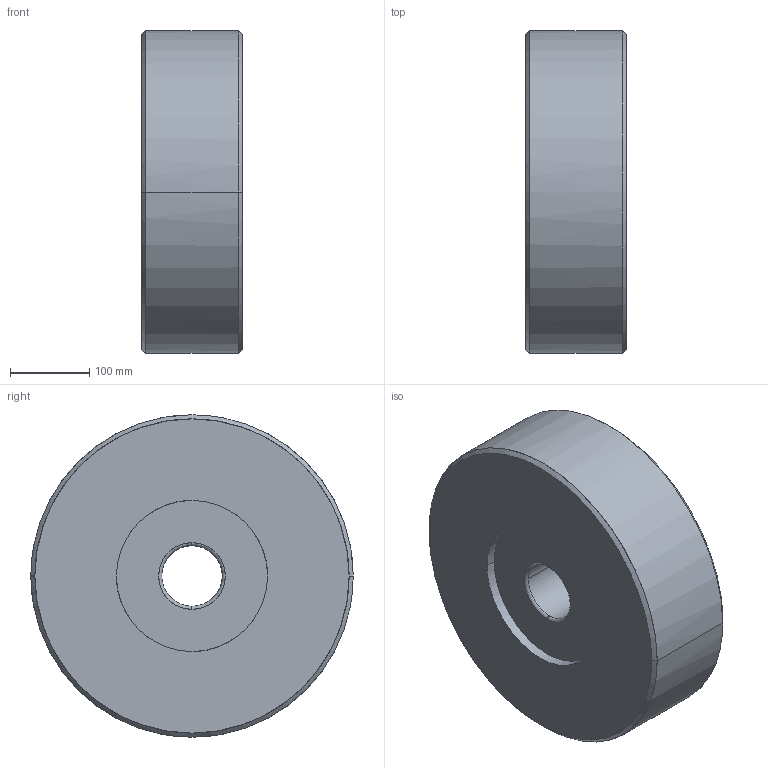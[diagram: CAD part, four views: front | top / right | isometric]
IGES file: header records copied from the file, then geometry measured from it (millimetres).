
Global section: native system: Kubotek KeyCreator; preprocessor: KCM Version 1.1.1442.0; author: KeyCreator User; organization: Self; date: 20170713.025201; units: inch
Bounding box: 127 x 406.4 x 406.4 mm (x, y, z)
Surface area: 443659.8 mm2 (no closed solid volume)
Topology: 0 solids, 0 shells, 20 faces, 128 edges, 128 vertices
Faces by surface type: bspline 20
